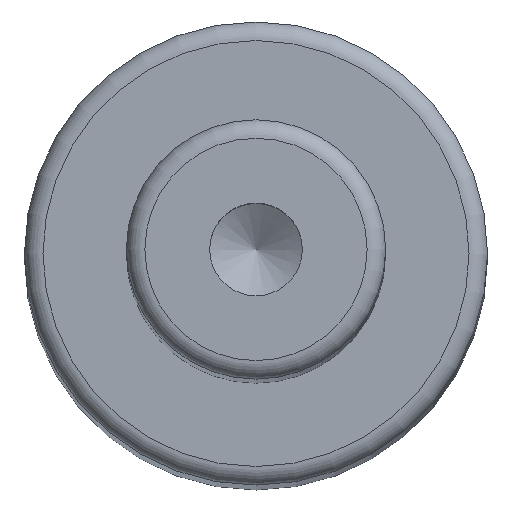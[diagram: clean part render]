
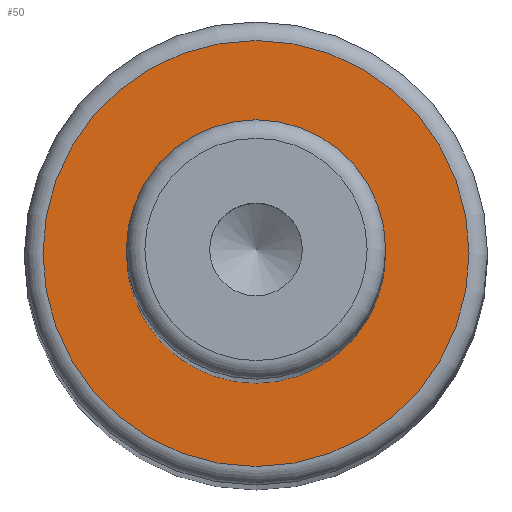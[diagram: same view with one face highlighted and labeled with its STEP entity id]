
A CAD part, top view. The second image highlights one B-rep face of the part: STEP entity #50.
In plain terms, the highlighted planar face has unit normal (0, 0, 1).
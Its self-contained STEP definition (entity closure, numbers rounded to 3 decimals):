
#40=PLANE('',#179);
#50=ADVANCED_FACE('',(#72,#73),#40,.F.);
#72=FACE_BOUND('',#96,.T.);
#73=FACE_BOUND('',#97,.T.);
#96=EDGE_LOOP('',(#118));
#97=EDGE_LOOP('',(#119));
#118=ORIENTED_EDGE('',*,*,#149,.F.);
#119=ORIENTED_EDGE('',*,*,#148,.T.);
#135=VERTEX_POINT('',#256);
#136=VERTEX_POINT('',#259);
#148=EDGE_CURVE('',#135,#135,#159,.T.);
#149=EDGE_CURVE('',#136,#136,#160,.T.);
#159=CIRCLE('',#176,7.);
#160=CIRCLE('',#178,11.5);
#176=AXIS2_PLACEMENT_3D('',#255,#213,#214);
#178=AXIS2_PLACEMENT_3D('',#258,#217,#218);
#179=AXIS2_PLACEMENT_3D('',#260,#219,#220);
#213=DIRECTION('',(0.,0.,-1.));
#214=DIRECTION('',(-1.,0.,0.));
#217=DIRECTION('',(0.,0.,-1.));
#218=DIRECTION('',(-1.,0.,0.));
#219=DIRECTION('',(0.,0.,-1.));
#220=DIRECTION('',(-1.,0.,0.));
#255=CARTESIAN_POINT('',(0.,0.,154.));
#256=CARTESIAN_POINT('',(-7.,0.,154.));
#258=CARTESIAN_POINT('',(0.,0.,154.));
#259=CARTESIAN_POINT('',(-11.5,0.,154.));
#260=CARTESIAN_POINT('',(7.,0.,154.));
